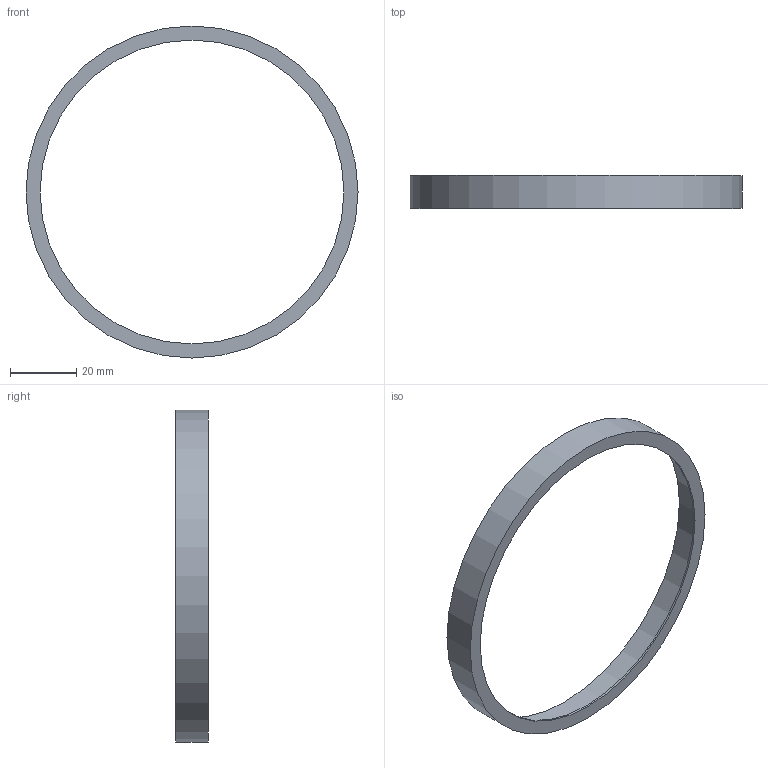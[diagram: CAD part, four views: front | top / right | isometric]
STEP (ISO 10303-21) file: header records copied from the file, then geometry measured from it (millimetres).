
FILE_DESCRIPTION(/* description */ (''),/* implementation_level */ '2;1');
FILE_NAME(/* name */ 'neoring_.step',/* time_stamp */ '2025-06-18T12:24:07+05:30',/* author */ (''),/* organization */ (''),/* preprocessor_version */ 'ST-DEVELOPER v20.1',/* originating_system */ 'Autodesk Translation Framework v14.10.0.0',/* authorisation */ '');
FILE_SCHEMA (('AUTOMOTIVE_DESIGN { 1 0 10303 214 3 1 1 }'));
Length unit declared in the file: millimetre
Products named in the file (1): neoring
Bounding box: 100 x 9.9 x 100 mm (x, y, z)
Volume: 3659.5 mm3; surface area: 8702.8 mm2
Topology: 1 solids, 1 shells, 6 faces, 9 edges, 6 vertices
Faces by surface type: plane 3, cylinder 3
Full cylindrical faces by diameter (mm): 91.5 x1, 98 x1, 100 x1
Entity records: 176 total; most frequent: DIRECTION 29, CARTESIAN_POINT 22, ORIENTED_EDGE 18, AXIS2_PLACEMENT_3D 13, EDGE_LOOP 9, EDGE_CURVE 9, FACE_OUTER_BOUND 6, CIRCLE 6
